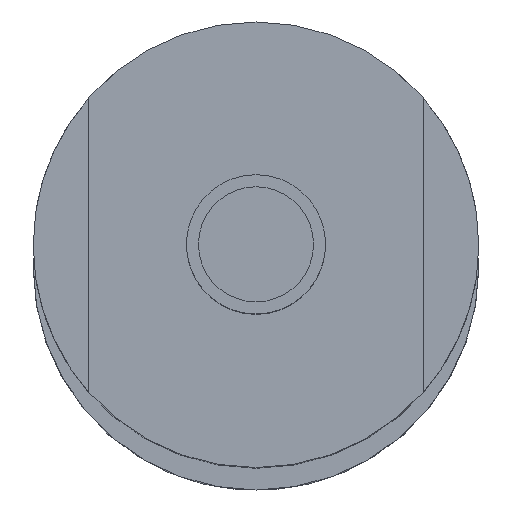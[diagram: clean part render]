
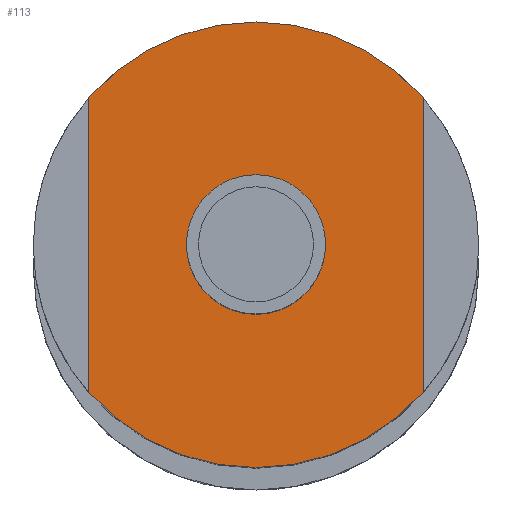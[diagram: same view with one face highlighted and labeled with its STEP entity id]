
A CAD part, top view. The second image highlights one B-rep face of the part: STEP entity #113.
In plain terms, the highlighted planar face has unit normal (0, 0, 1).
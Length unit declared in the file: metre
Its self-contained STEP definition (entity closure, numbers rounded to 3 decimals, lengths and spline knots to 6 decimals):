
#113=ADVANCED_FACE('17:304',(#222,#223),#224,.T.);
#222=FACE_BOUND('',#340,.T.);
#223=FACE_OUTER_BOUND('',#341,.T.);
#224=PLANE('',#342);
#340=EDGE_LOOP('',(#550,#551));
#341=EDGE_LOOP('',(#552,#553,#554,#555,#556,#557));
#342=AXIS2_PLACEMENT_3D('',#558,#559,#560);
#550=ORIENTED_EDGE('',*,*,#643,.T.);
#551=ORIENTED_EDGE('',*,*,#714,.T.);
#552=ORIENTED_EDGE('',*,*,#716,.F.);
#553=ORIENTED_EDGE('',*,*,#653,.F.);
#554=ORIENTED_EDGE('',*,*,#652,.F.);
#555=ORIENTED_EDGE('',*,*,#701,.T.);
#556=ORIENTED_EDGE('',*,*,#708,.F.);
#557=ORIENTED_EDGE('',*,*,#707,.F.);
#558=CARTESIAN_POINT('',(0.,0.,0.389));
#559=DIRECTION('',(0.0,0.0,1.0));
#560=DIRECTION('',(1.0,0.0,0.0));
#643=EDGE_CURVE('19:2123',#759,#756,#760,.F.);
#652=EDGE_CURVE('17:354',#774,#776,#777,.F.);
#653=EDGE_CURVE('17:345',#776,#778,#779,.F.);
#701=EDGE_CURVE('17:844',#774,#849,#850,.T.);
#707=EDGE_CURVE('17:351',#857,#859,#860,.F.);
#708=EDGE_CURVE('17:342',#859,#849,#861,.F.);
#714=EDGE_CURVE('',#756,#759,#867,.F.);
#716=EDGE_CURVE('17:790',#778,#857,#869,.F.);
#756=VERTEX_POINT('',#933);
#759=VERTEX_POINT('',#937);
#760=CIRCLE('',#938,0.0025);
#774=VERTEX_POINT('',#955);
#776=VERTEX_POINT('',#958);
#777=CIRCLE('',#959,0.008);
#778=VERTEX_POINT('',#960);
#779=CIRCLE('',#961,0.008);
#849=VERTEX_POINT('',#1046);
#850=LINE('',#1047,#1048);
#857=VERTEX_POINT('',#1057);
#859=VERTEX_POINT('',#1060);
#860=CIRCLE('',#1061,0.008);
#861=CIRCLE('',#1062,0.008);
#867=CIRCLE('',#1068,0.0025);
#869=LINE('',#1070,#1071);
#933=CARTESIAN_POINT('',(0.00239,0.000133,0.389));
#937=CARTESIAN_POINT('',(-0.00261,0.000133,0.389));
#938=AXIS2_PLACEMENT_3D('',#1144,#1145,#1146);
#955=CARTESIAN_POINT('',(-0.00611,0.005425,0.389));
#958=CARTESIAN_POINT('',(-0.00011,0.008133,0.389));
#959=AXIS2_PLACEMENT_3D('',#1160,#1161,#1162);
#960=CARTESIAN_POINT('',(0.00589,0.005425,0.389));
#961=AXIS2_PLACEMENT_3D('',#1163,#1164,#1165);
#1046=CARTESIAN_POINT('',(-0.00611,-0.005158,0.389));
#1047=CARTESIAN_POINT('',(-0.00611,0.000067,0.389));
#1048=VECTOR('',#1235,1.0);
#1057=CARTESIAN_POINT('',(0.00589,-0.005158,0.389));
#1060=CARTESIAN_POINT('',(-0.00011,-0.007867,0.389));
#1061=AXIS2_PLACEMENT_3D('',#1242,#1243,#1244);
#1062=AXIS2_PLACEMENT_3D('',#1245,#1246,#1247);
#1068=AXIS2_PLACEMENT_3D('',#1257,#1258,#1259);
#1070=CARTESIAN_POINT('',(0.00589,0.000067,0.389));
#1071=VECTOR('',#1260,1.0);
#1144=CARTESIAN_POINT('',(-0.00011,0.000133,0.389));
#1145=DIRECTION('',(0.0,0.0,1.0));
#1146=DIRECTION('',(1.0,0.0,-0.0));
#1160=CARTESIAN_POINT('',(-0.00011,0.000133,0.389));
#1161=DIRECTION('',(0.0,0.0,1.0));
#1162=DIRECTION('',(1.0,0.0,0.0));
#1163=CARTESIAN_POINT('',(-0.00011,0.000133,0.389));
#1164=DIRECTION('',(0.0,0.0,1.0));
#1165=DIRECTION('',(1.0,0.0,0.0));
#1235=DIRECTION('',(0.,-1.0,0.0));
#1242=CARTESIAN_POINT('',(-0.00011,0.000133,0.389));
#1243=DIRECTION('',(0.0,0.0,1.0));
#1244=DIRECTION('',(1.0,0.0,0.0));
#1245=CARTESIAN_POINT('',(-0.00011,0.000133,0.389));
#1246=DIRECTION('',(0.0,0.0,1.0));
#1247=DIRECTION('',(1.0,0.0,0.0));
#1257=CARTESIAN_POINT('',(-0.00011,0.000133,0.389));
#1258=DIRECTION('',(0.0,0.0,1.0));
#1259=DIRECTION('',(1.0,0.0,-0.0));
#1260=DIRECTION('',(0.,1.0,0.0));
